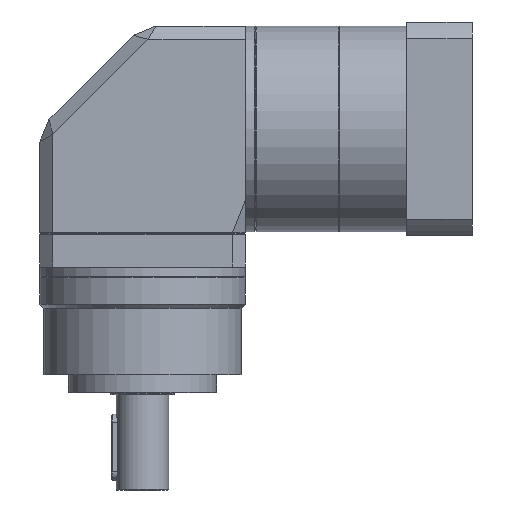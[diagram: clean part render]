
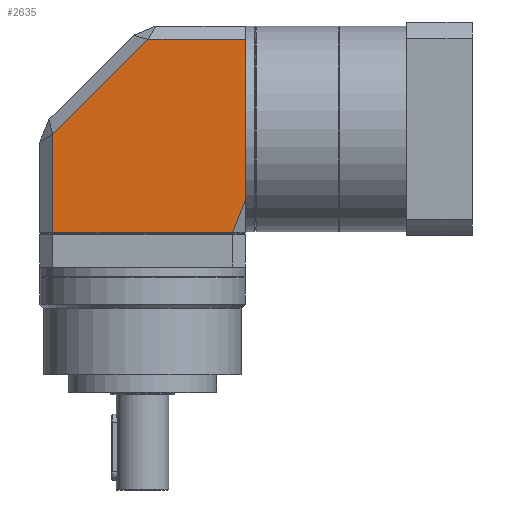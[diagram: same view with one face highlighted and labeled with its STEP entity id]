
A CAD part, left-side view. The second image highlights one B-rep face of the part: STEP entity #2635.
In plain terms, the highlighted planar face has unit normal (-1, 0, 0).
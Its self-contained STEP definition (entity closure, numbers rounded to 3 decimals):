
#52=PLANE('',#2967);
#276=FACE_OUTER_BOUND('',#446,.T.);
#446=EDGE_LOOP('',(#2292,#2293,#2294,#2295,#2296,#2297,#2298));
#587=LINE('',#4479,#804);
#592=LINE('',#4489,#809);
#654=LINE('',#4623,#871);
#655=LINE('',#4625,#872);
#656=LINE('',#4626,#873);
#657=LINE('',#4628,#874);
#658=LINE('',#4629,#875);
#804=VECTOR('',#3556,1000.);
#809=VECTOR('',#3563,1000.);
#871=VECTOR('',#3697,1000.);
#872=VECTOR('',#3698,1000.);
#873=VECTOR('',#3699,1000.);
#874=VECTOR('',#3700,1000.);
#875=VECTOR('',#3701,1000.);
#1188=VERTEX_POINT('',#4168);
#1291=VERTEX_POINT('',#4477);
#1293=VERTEX_POINT('',#4482);
#1330=VERTEX_POINT('',#4621);
#1331=VERTEX_POINT('',#4622);
#1332=VERTEX_POINT('',#4624);
#1333=VERTEX_POINT('',#4627);
#1606=EDGE_CURVE('',#1291,#1188,#587,.T.);
#1611=EDGE_CURVE('',#1188,#1293,#592,.T.);
#1674=EDGE_CURVE('',#1330,#1331,#654,.T.);
#1675=EDGE_CURVE('',#1331,#1332,#655,.T.);
#1676=EDGE_CURVE('',#1293,#1332,#656,.T.);
#1677=EDGE_CURVE('',#1291,#1333,#657,.T.);
#1678=EDGE_CURVE('',#1333,#1330,#658,.T.);
#2292=ORIENTED_EDGE('',*,*,#1674,.T.);
#2293=ORIENTED_EDGE('',*,*,#1675,.T.);
#2294=ORIENTED_EDGE('',*,*,#1676,.F.);
#2295=ORIENTED_EDGE('',*,*,#1611,.F.);
#2296=ORIENTED_EDGE('',*,*,#1606,.F.);
#2297=ORIENTED_EDGE('',*,*,#1677,.T.);
#2298=ORIENTED_EDGE('',*,*,#1678,.T.);
#2635=ADVANCED_FACE('',(#276),#52,.F.);
#2967=AXIS2_PLACEMENT_3D('',#4620,#3695,#3696);
#3556=DIRECTION('',(0.,0.,-1.));
#3563=DIRECTION('',(0.,0.,-1.));
#3695=DIRECTION('center_axis',(1.,0.,0.));
#3696=DIRECTION('ref_axis',(0.,0.,-1.));
#3697=DIRECTION('',(0.,0.,-1.));
#3698=DIRECTION('',(0.,-1.,0.));
#3699=DIRECTION('',(0.,0.371,-0.928));
#3700=DIRECTION('',(0.,1.,0.));
#3701=DIRECTION('',(0.,0.707,-0.707));
#4168=CARTESIAN_POINT('',(-62.5,-62.5,149.5));
#4477=CARTESIAN_POINT('',(-62.5,-62.5,204.));
#4479=CARTESIAN_POINT('',(-62.5,-62.5,212.));
#4482=CARTESIAN_POINT('',(-62.5,-62.5,106.));
#4489=CARTESIAN_POINT('',(-62.5,-62.5,212.));
#4620=CARTESIAN_POINT('Origin',(-62.5,62.5,212.));
#4621=CARTESIAN_POINT('',(-62.5,54.5,146.186));
#4622=CARTESIAN_POINT('',(-62.5,54.5,86.5));
#4623=CARTESIAN_POINT('',(-62.5,54.5,212.));
#4624=CARTESIAN_POINT('',(-62.5,-54.7,86.5));
#4625=CARTESIAN_POINT('',(-62.5,62.5,86.5));
#4626=CARTESIAN_POINT('',(-62.5,-81.81,154.276));
#4627=CARTESIAN_POINT('',(-62.5,-3.314,204.));
#4628=CARTESIAN_POINT('',(-62.5,0.,204.));
#4629=CARTESIAN_POINT('',(-62.5,56.843,143.843));
